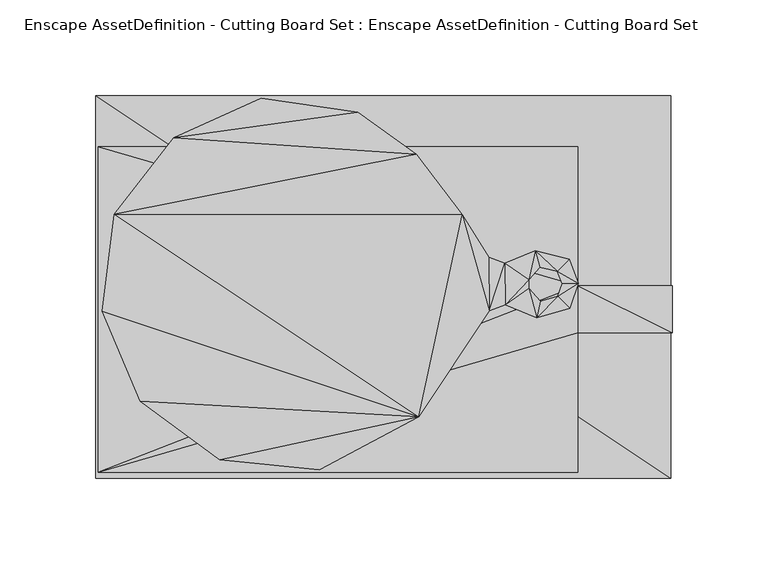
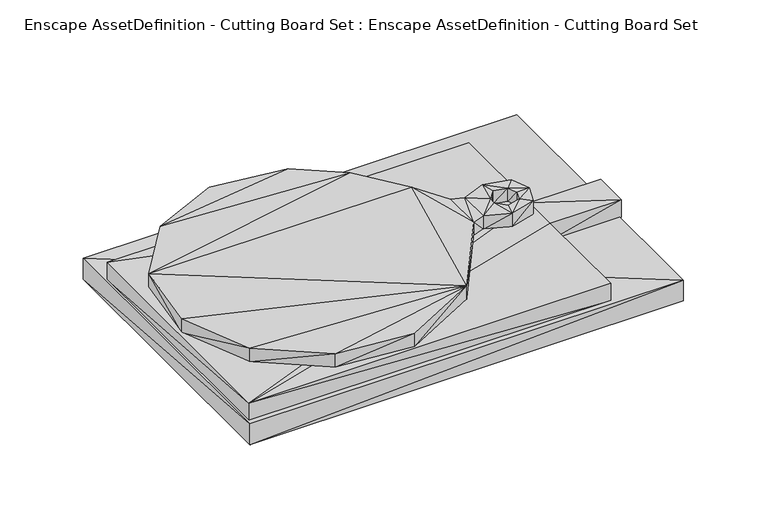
"""IFC4 building model written with IfcOpenShell, lengths in millimetres: geographic element geometry, Enscape AssetDefinition - Cutting Board Set : Enscape AssetDefinition - Cutting Board Set."""

from ifc_helpers import new_model, si_unit, origin, place, context, project, spatial, faceted_brep, source, transform, mapped, element, save


def enscape_assetdefinition_cutting_board_set_enscape_92c2f0eb(model_context):
    return source(origin(), model_context, "Body", "Brep", [
        faceted_brep([(283.4849954, 97.416997, 15.1049998), (-16.9079993, 97.416997, 15.1049998), (283.4849954, -102.3859978, 15.1049998), (283.4849954, 97.416997, -0.117), (-16.9079993, 97.416997, -0.117), (-16.9079993, -102.3859978, 15.1049998), (-16.9079993, -102.3859978, -0.117), (283.4849954, -102.3859978, -0.117)], [[[0, 1, 2]], [[3, 4, 0]], [[5, 6, 2]], [[2, 7, 0]], [[4, 5, 1]], [[2, 1, 5]], [[0, 4, 1]], [[2, 6, 7]], [[0, 7, 3]], [[7, 4, 3]], [[4, 7, 6]], [[4, 6, 5]]]),
        faceted_brep([(234.780997, -26.4769997, 27.7859997), (234.780997, -1.9180001, 27.7859997), (-15.7130007, -99.1979986, 27.7859997), (-15.7130007, 70.8020031, 27.7859997), (234.780997, 70.8020031, 27.7859997), (284.2870057, -1.9180001, 27.7859997), (284.2870057, -26.4769997, 27.7859997), (234.780997, -1.9180001, 14.9940001), (234.780997, 70.8020031, 14.9940001), (-15.7130007, 70.8020031, 14.9940001), (-15.7130007, -99.1979986, 14.9940001), (234.780997, -26.4769997, 14.9940001), (284.2870057, -26.4769997, 14.9940001), (284.2870057, -1.9180001, 14.9940001), (234.780997, -99.1979986, 14.9940001), (234.780997, -99.1979986, 27.7859997)], [[[0, 1, 2]], [[3, 1, 4]], [[5, 1, 6]], [[1, 5, 7]], [[4, 1, 8]], [[2, 1, 3]], [[6, 1, 0]], [[8, 1, 7]], [[3, 4, 9]], [[9, 4, 8]], [[9, 2, 3]], [[8, 7, 9]], [[10, 2, 9]], [[7, 10, 9]], [[11, 10, 7]], [[11, 7, 12]], [[12, 7, 13]], [[7, 5, 13]], [[5, 6, 13]], [[13, 6, 12]], [[12, 6, 11]], [[11, 6, 0]], [[11, 14, 10]], [[0, 15, 11]], [[11, 15, 14]], [[14, 2, 10]], [[15, 2, 14]], [[2, 15, 0]]]),
        faceted_brep([(188.6180043, -14.9929998, 37.7859995), (151.9390047, -70.3700036, 37.7859995), (188.6180043, -14.9929998, 27.7859997), (151.9390047, -70.3700036, 27.7859997), (99.9270007, -97.8479981, 27.7859997), (6.3780001, -62.1219985, 37.7859995), (47.7750003, -92.6880017, 37.7859995), (174.6080071, 35.1100005, 37.7859995), (99.9270007, -97.8479981, 37.7859995), (-7.2840001, 35.521999, 37.7859995), (-13.6219999, -15.1359998, 37.7859995), (47.7750003, -92.6880017, 27.7859997), (6.3780001, -62.1219985, 27.7859997), (-13.6219999, -15.1359998, 27.7859997), (-7.2840001, 35.521999, 27.7859997), (174.6080071, 35.1100005, 27.7859997), (23.7300005, 75.4659995, 27.7859997), (150.4209936, 66.7449981, 27.7859997), (188.3289963, 12.9089998, 27.7859997), (196.934998, -11.8319998, 27.7859997), (196.6830045, 9.7780004, 27.7859997), (188.3289963, 12.9089998, 37.7859995), (150.4209936, 66.7449981, 37.7859995), (196.934998, -11.8319998, 37.7859995), (196.6830045, 9.7780004, 37.7859995), (212.7919942, 16.4659992, 37.7859995), (209.3590051, 1.346, 37.7859995), (209.3989998, -3.2589999, 37.7859995), (213.3810073, -18.5560007, 37.7859995), (215.0020003, 7.8880005, 37.7859995), (209.3590051, 1.346, 27.7859997), (215.3960019, -9.908, 37.7859995), (209.3989998, -3.2589999, 27.7859997), (224.4029939, -7.371, 37.7859995), (215.3960019, -9.908, 27.7859997), (213.3810073, -18.5560007, 27.7859997), (224.4029939, -7.371, 27.7859997), (230.8129966, -13.5700004, 27.7859997), (230.8129966, -13.5700004, 37.7859995), (212.7919942, 16.4659992, 27.7859997), (215.0020003, 7.8880005, 27.7859997), (224.1840065, 5.6579998, 27.7859997), (230.3819954, 12.0679997, 37.7859995), (230.3819954, 12.0679997, 27.7859997), (224.1840065, 5.6579998, 37.7859995), (235.2900058, -0.672, 37.7859995), (235.2900058, -0.672, 27.7859997), (226.6779989, -0.817, 27.7859997), (226.6779989, -0.817, 37.7859995), (23.7300005, 75.4659995, 37.7859995), (120.0079992, 88.8580009, 37.7859995), (120.0079992, 88.8580009, 27.7859997), (69.5639998, 96.0199982, 37.7859995), (69.5639998, 96.0199982, 27.7859997)], [[[0, 1, 2]], [[3, 1, 4]], [[1, 5, 6]], [[1, 0, 7]], [[2, 1, 3]], [[4, 1, 8]], [[1, 6, 8]], [[9, 1, 7]], [[1, 9, 10]], [[1, 10, 5]], [[4, 8, 11]], [[11, 3, 4]], [[11, 8, 6]], [[11, 6, 12]], [[12, 6, 5]], [[12, 5, 13]], [[13, 5, 10]], [[10, 9, 13]], [[3, 12, 13]], [[13, 14, 3]], [[13, 9, 14]], [[3, 11, 12]], [[14, 15, 3]], [[15, 2, 3]], [[14, 16, 17]], [[14, 9, 16]], [[14, 17, 15]], [[18, 2, 15]], [[15, 7, 18]], [[17, 7, 15]], [[19, 2, 20]], [[20, 2, 18]], [[19, 0, 2]], [[18, 21, 20]], [[18, 7, 21]], [[22, 7, 17]], [[22, 9, 7]], [[7, 0, 21]], [[23, 24, 0]], [[23, 0, 19]], [[0, 24, 21]], [[20, 21, 24]], [[24, 25, 20]], [[23, 26, 24]], [[26, 25, 24]], [[27, 26, 23]], [[28, 27, 23]], [[19, 28, 23]], [[29, 25, 26]], [[26, 27, 30]], [[30, 29, 26]], [[31, 27, 28]], [[27, 31, 32]], [[30, 27, 32]], [[31, 33, 34]], [[32, 31, 34]], [[28, 33, 31]], [[32, 19, 30]], [[19, 32, 35]], [[35, 32, 34]], [[34, 36, 35]], [[34, 33, 36]], [[35, 28, 19]], [[37, 38, 35]], [[35, 36, 37]], [[35, 38, 28]], [[30, 19, 20]], [[20, 39, 30]], [[20, 25, 39]], [[40, 39, 41]], [[25, 42, 39]], [[41, 39, 43]], [[30, 39, 40]], [[39, 42, 43]], [[29, 44, 25]], [[25, 44, 42]], [[42, 44, 45]], [[43, 42, 46]], [[46, 42, 45]], [[46, 41, 43]], [[47, 46, 36]], [[47, 41, 46]], [[46, 45, 37]], [[36, 46, 37]], [[36, 33, 47]], [[47, 48, 41]], [[47, 33, 48]], [[48, 33, 45]], [[38, 33, 28]], [[45, 33, 38]], [[45, 44, 48]], [[41, 48, 44]], [[37, 45, 38]], [[41, 44, 40]], [[40, 29, 30]], [[40, 44, 29]], [[49, 22, 50]], [[50, 22, 51]], [[22, 49, 9]], [[51, 22, 17]], [[52, 50, 53]], [[49, 50, 52]], [[53, 50, 51]], [[16, 49, 53]], [[16, 9, 49]], [[53, 49, 52]], [[51, 16, 53]], [[16, 51, 17]]]),
    ])


if __name__ == "__main__":
    model = new_model("IFC4")
    model_context = context("Model", 3, world=origin())
    ifc_project = project(units=[si_unit("LENGTHUNIT", "METRE", prefix="MILLI")], contexts=[model_context])
    site = spatial("IfcSite", under=ifc_project)
    building = spatial("IfcBuilding", under=site)
    placement = place(None, origin())
    enscape_assetdefinition_cutting_board_set_enscape_shape = enscape_assetdefinition_cutting_board_set_enscape_92c2f0eb(model_context)
    element("IfcGeographicElement", 1, ObjectType="Enscape AssetDefinition - Cutting Board Set : Enscape AssetDefinition - Cutting Board Set", at=placement, inside=building, context=model_context, shape_type="MappedRepresentation", body=[
        mapped(enscape_assetdefinition_cutting_board_set_enscape_shape, transform((0.0, 0.0, 0.0), x_axis=(1.0, 0.0, 0.0), y_axis=(0.0, 1.0, 0.0), z_axis=(0.0, 0.0, 1.0))),
    ])
    save(model, "model.ifc")
